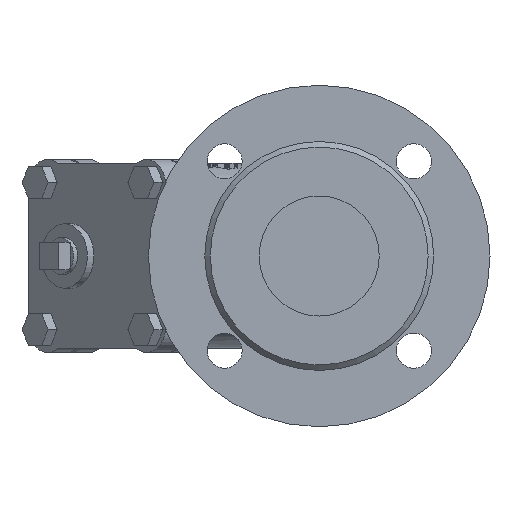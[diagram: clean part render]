
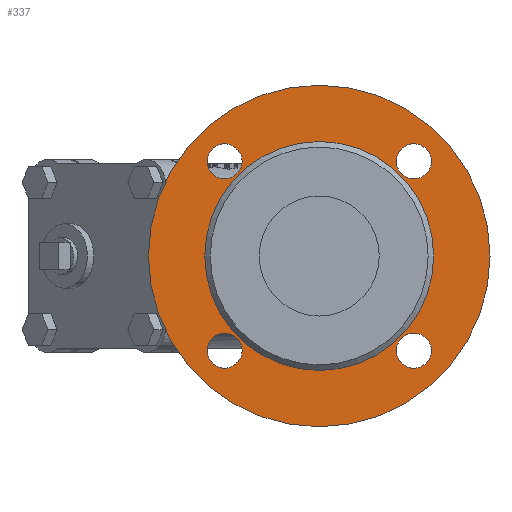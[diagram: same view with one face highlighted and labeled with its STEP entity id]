
A CAD part, front view. The second image highlights one B-rep face of the part: STEP entity #337.
In plain terms, the highlighted planar face has unit normal (0, -1, 0).
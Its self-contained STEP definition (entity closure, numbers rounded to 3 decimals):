
#337=ADVANCED_FACE('',(#8755,#8757,#8759,#8761,#8763,#8765),#8767,.F.);
#8755=FACE_BOUND('',#8756,.T.);
#8756=EDGE_LOOP('',(#16125,#16126));
#8757=FACE_BOUND('',#8758,.T.);
#8758=EDGE_LOOP('',(#16127));
#8759=FACE_BOUND('',#8760,.T.);
#8760=EDGE_LOOP('',(#16128));
#8761=FACE_BOUND('',#8762,.T.);
#8762=EDGE_LOOP('',(#16129));
#8763=FACE_BOUND('',#8764,.T.);
#8764=EDGE_LOOP('',(#16130));
#8765=FACE_BOUND('',#8766,.T.);
#8766=EDGE_LOOP('',(#16131,#16132));
#8767=PLANE('',#8768);
#8768=AXIS2_PLACEMENT_3D('',#8769,#8770,#8771);
#8769=CARTESIAN_POINT('',(2547.057,-35.483,0.));
#8770=DIRECTION('',(0.,1.,0.));
#8771=DIRECTION('',(0.,0.,1.));
#16125=ORIENTED_EDGE('',*,*,#21502,.T.);
#16126=ORIENTED_EDGE('',*,*,#21503,.T.);
#16127=ORIENTED_EDGE('',*,*,#21495,.F.);
#16128=ORIENTED_EDGE('',*,*,#21496,.F.);
#16129=ORIENTED_EDGE('',*,*,#21497,.F.);
#16130=ORIENTED_EDGE('',*,*,#21494,.F.);
#16131=ORIENTED_EDGE('',*,*,#21499,.F.);
#16132=ORIENTED_EDGE('',*,*,#21498,.F.);
#21494=EDGE_CURVE('',#25075,#25075,#25076,.T.);
#21495=EDGE_CURVE('',#25077,#25077,#25078,.T.);
#21496=EDGE_CURVE('',#25079,#25079,#25080,.T.);
#21497=EDGE_CURVE('',#25081,#25081,#25082,.T.);
#21498=EDGE_CURVE('',#25083,#25084,#25085,.T.);
#21499=EDGE_CURVE('',#25084,#25083,#25086,.T.);
#21502=EDGE_CURVE('',#25091,#25092,#25093,.T.);
#21503=EDGE_CURVE('',#25092,#25091,#25094,.T.);
#25075=VERTEX_POINT('',#33444);
#25076=CIRCLE('',#33445,9.5);
#25077=VERTEX_POINT('',#33449);
#25078=CIRCLE('',#33450,9.5);
#25079=VERTEX_POINT('',#33454);
#25080=CIRCLE('',#33455,9.5);
#25081=VERTEX_POINT('',#33459);
#25082=CIRCLE('',#33460,9.5);
#25083=VERTEX_POINT('',#33464);
#25084=VERTEX_POINT('',#33465);
#25085=CIRCLE('',#33466,62.);
#25086=CIRCLE('',#33470,62.);
#25091=VERTEX_POINT('',#33484);
#25092=VERTEX_POINT('',#33485);
#25093=CIRCLE('',#33486,92.5);
#25094=CIRCLE('',#33490,92.5);
#33444=CARTESIAN_POINT('',(2412.792,-35.483,51.265));
#33445=AXIS2_PLACEMENT_3D('',#33446,#33447,#33448);
#33446=CARTESIAN_POINT('',(2403.292,-35.483,51.265));
#33447=DIRECTION('',(0.,-1.,0.));
#33448=DIRECTION('',(1.,0.,0.));
#33449=CARTESIAN_POINT('',(2515.322,-35.483,51.265));
#33450=AXIS2_PLACEMENT_3D('',#33451,#33452,#33453);
#33451=CARTESIAN_POINT('',(2505.822,-35.483,51.265));
#33452=DIRECTION('',(0.,-1.,0.));
#33453=DIRECTION('',(1.,0.,0.));
#33454=CARTESIAN_POINT('',(2515.322,-35.483,-51.265));
#33455=AXIS2_PLACEMENT_3D('',#33456,#33457,#33458);
#33456=CARTESIAN_POINT('',(2505.822,-35.483,-51.265));
#33457=DIRECTION('',(0.,-1.,0.));
#33458=DIRECTION('',(1.,0.,0.));
#33459=CARTESIAN_POINT('',(2412.792,-35.483,-51.265));
#33460=AXIS2_PLACEMENT_3D('',#33461,#33462,#33463);
#33461=CARTESIAN_POINT('',(2403.292,-35.483,-51.265));
#33462=DIRECTION('',(0.,-1.,0.));
#33463=DIRECTION('',(1.,0.,0.));
#33464=CARTESIAN_POINT('',(2516.557,-35.483,0.));
#33465=CARTESIAN_POINT('',(2392.557,-35.483,0.));
#33466=AXIS2_PLACEMENT_3D('',#33467,#33468,#33469);
#33467=CARTESIAN_POINT('',(2454.557,-35.483,0.));
#33468=DIRECTION('',(0.,-1.,0.));
#33469=DIRECTION('',(1.,0.,0.));
#33470=AXIS2_PLACEMENT_3D('',#33471,#33472,#33473);
#33471=CARTESIAN_POINT('',(2454.557,-35.483,0.));
#33472=DIRECTION('',(0.,-1.,0.));
#33473=DIRECTION('',(-1.,0.,0.));
#33484=CARTESIAN_POINT('',(2547.057,-35.483,0.));
#33485=CARTESIAN_POINT('',(2362.057,-35.483,0.));
#33486=AXIS2_PLACEMENT_3D('',#33487,#33488,#33489);
#33487=CARTESIAN_POINT('',(2454.557,-35.483,0.));
#33488=DIRECTION('',(0.,-1.,0.));
#33489=DIRECTION('',(1.,0.,0.));
#33490=AXIS2_PLACEMENT_3D('',#33491,#33492,#33493);
#33491=CARTESIAN_POINT('',(2454.557,-35.483,0.));
#33492=DIRECTION('',(0.,-1.,0.));
#33493=DIRECTION('',(-1.,0.,0.));
